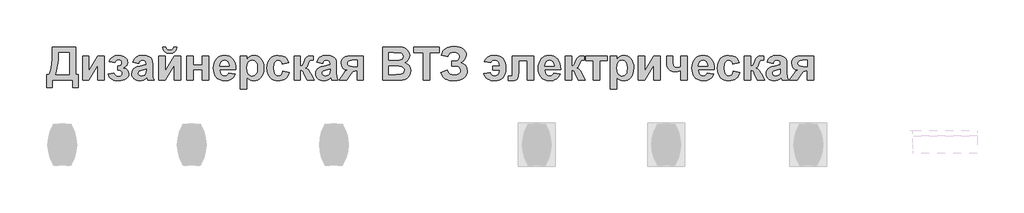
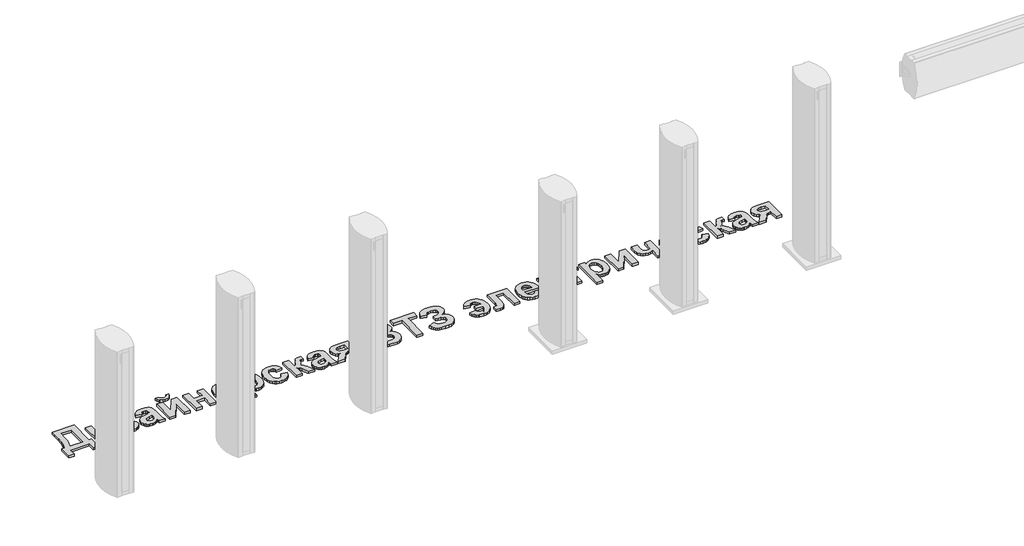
# One storey, part 6 of 8: 1 proxy.
"""IFC4 building model written with IfcOpenShell, lengths in millimetres."""

from ifc_helpers import new_model, si_unit, origin, origin_with_axes, place, context, project, spatial, polyline, outline, extrude, element, save

model = new_model("IFC4")

# Units and contexts
model_context = context("Model", 3, world=origin())
ifc_project = project(units=[si_unit("LENGTHUNIT", "METRE", prefix="MILLI")], contexts=[model_context])

# Site, building, storey
site = spatial("IfcSite", under=ifc_project)
building = spatial("IfcBuilding", under=site)
storey = spatial("IfcBuildingStorey", under=building, Name="Уровень 1", Elevation=0.0)

# Proxy
placement = place(None, origin())
element("IfcBuildingElementProxy", 1, Name="ИЗТТ_Текст1", ObjectType="ИЗТТ_Текст1", at=placement, inside=storey, context=model_context, shape_type="SweptSolid", body=[
    extrude(outline(polyline([(-15301.8566693, 5559.1310896), (-15016.8318211, 5559.1310896), (-15016.8318211, 5222.2835417), (-14984.4426338, 5222.2835417), (-14984.4426338, 5060.3376052), (-15055.6988459, 5060.3376052), (-15055.6988459, 5151.0273296), (-15301.8566693, 5151.0273296), (-15301.8566693, 5060.3376052), (-15373.1128814, 5060.3376052), (-15373.1128814, 5222.2835417), (-15340.7236941, 5222.2835417), (-15320.9991851, 5278.3826263), (-15309.397277, 5342.8320482), (-15303.7418213, 5420.5154896), (-15301.8566693, 5516.3166326), (-15301.8566693, 5559.1310896)]), holes=[polyline([(-15224.1226198, 5487.8748775), (-15226.5518089, 5402.9544771), (-15233.839376, 5330.3824543), (-15245.9853213, 5270.1588092), (-15262.9896446, 5222.2835417), (-15094.5658706, 5222.2835417), (-15094.5658706, 5487.8748775), (-15224.1226198, 5487.8748775)])]), origin_with_axes(), (0.0, 0.0, 1.0), 30.0),
    extrude(outline(polyline([(-14932.6199341, 5449.0078528), (-14854.8858846, 5449.0078528), (-14854.8858846, 5265.7052959), (-14744.7626478, 5449.0078528), (-14667.0285983, 5449.0078528), (-14667.0285983, 5151.0273296), (-14744.7626478, 5151.0273296), (-14744.7626478, 5334.4311027), (-14854.8858846, 5151.0273296), (-14932.6199341, 5151.0273296), (-14932.6199341, 5449.0078528)])), origin_with_axes(), (0.0, 0.0, 1.0), 30.0),
    extrude(outline(polyline([(-14505.0826618, 5274.1062414), (-14505.0826618, 5325.928941), (-14477.3494201, 5328.6111706), (-14468.9611267, 5333.2165082), (-14461.0030022, 5341.6680617), (-14455.1957221, 5352.7891929), (-14453.2599621, 5365.4032631), (-14455.613239, 5379.0421474), (-14462.6730696, 5391.6182615), (-14474.4647581, 5400.6518083), (-14491.0136085, 5403.6629906), (-14504.703101, 5401.967619), (-14516.8237422, 5396.8815045), (-14527.6538767, 5385.4693768), (-14537.4718491, 5364.7959658), (-14608.7280611, 5377.7516407), (-14602.3640919, 5395.9705586), (-14593.1913728, 5411.7602874), (-14581.2099039, 5425.1208272), (-14566.4196852, 5436.0521779), (-14531.7784372, 5450.6273122), (-14492.6330679, 5455.4856902), (-14467.7528582, 5453.9547951), (-14445.8458747, 5449.3621095), (-14426.9121173, 5441.7076336), (-14410.9515862, 5430.9913674), (-14398.2869079, 5417.9597803), (-14389.2407091, 5403.3593419), (-14383.8129898, 5387.1900523), (-14382.00375, 5369.4519115), (-14385.1288005, 5348.3483316), (-14394.503952, 5331.192184), (-14410.6352855, 5316.5411375), (-14434.0288821, 5302.9528613), (-14405.5365189, 5291.6166457), (-14385.2426688, 5275.6244845), (-14373.0967235, 5255.0522898), (-14369.0480751, 5229.9759737), (-14371.0502583, 5213.0791926), (-14377.0568077, 5197.409658), (-14387.0677235, 5182.96737), (-14401.0830057, 5169.7523285), (-14418.8622656, 5158.7260876), (-14440.1651149, 5150.8502013), (-14464.9915535, 5146.1246694), (-14493.3415814, 5144.5494922), (-14540.6854637, 5149.8127351), (-14560.542819, 5156.3917888), (-14577.857117, 5165.6024639), (-14592.6283577, 5177.4447605), (-14604.8565411, 5191.9186786), (-14614.5416672, 5209.0242181), (-14621.683736, 5228.7613791), (-14550.427524, 5241.7170541), (-14540.5462915, 5221.8786768), (-14527.9069172, 5207.7084074), (-14512.5094012, 5199.2062457), (-14494.3537435, 5196.3721918), (-14474.9328831, 5199.332766), (-14459.7884076, 5208.2144885), (-14450.0336954, 5221.0942512), (-14446.7821246, 5236.0489463), (-14449.9577832, 5251.9398913), (-14459.484759, 5263.9846203), (-14474.1484575, 5271.5758361), (-14492.7342841, 5274.1062414), (-14505.0826618, 5274.1062414)])), origin_with_axes(), (0.0, 0.0, 1.0), 30.0),
    extrude(outline(polyline([(-14245.9691634, 5358.3181283), (-14317.2253754, 5371.2738033), (-14301.7772513, 5408.6225849), (-14290.9692579, 5423.121807), (-14278.1053101, 5434.8375833), (-14262.5338288, 5443.8711301), (-14243.6032344, 5450.3236635), (-14195.6647068, 5455.4856902), (-14152.3188648, 5452.3606398), (-14121.6756571, 5442.9854883), (-14100.9769421, 5428.8152188), (-14087.464578, 5411.3048144), (-14080.0251866, 5384.0903059), (-14077.5453894, 5340.807724), (-14077.5453894, 5248.903405), (-14073.4461329, 5191.0077327), (-14058.111877, 5151.0273296), (-14135.8459265, 5151.0273296), (-14143.1334937, 5175.7240849), (-14145.8663314, 5185.5420573), (-14165.9830532, 5167.6394401), (-14187.4661938, 5154.8229375), (-14210.3663614, 5147.1178535), (-14234.734164, 5144.5494922), (-14255.7270386, 5146.1088544), (-14274.3729624, 5150.7869411), (-14290.6719352, 5158.5837523), (-14304.6239572, 5169.499288), (-14315.8051855, 5182.7934046), (-14323.7917771, 5197.7259587), (-14328.583732, 5214.2969501), (-14330.1810503, 5232.5063789), (-14327.3343444, 5256.3427965), (-14318.7942267, 5277.4463763), (-14305.1173863, 5294.8808685), (-14286.8605123, 5307.7100232), (-14261.7841962, 5317.5532996), (-14227.6490293, 5326.0301573), (-14183.4428494, 5336.025258), (-14155.2794389, 5345.3624534), (-14155.2794389, 5353.5609665), (-14157.6959759, 5373.7536004), (-14164.945587, 5387.1647483), (-14178.8754679, 5394.6800519), (-14201.3328146, 5397.1851531), (-14217.4514961, 5395.0343086), (-14229.5721373, 5388.5817752), (-14238.7322043, 5376.7141746), (-14245.9691634, 5358.3181283)]), holes=[polyline([(-14155.2794389, 5287.0619163), (-14199.106058, 5276.2823899), (-14238.3779476, 5263.9846203), (-14248.9297375, 5252.9267494), (-14252.4470008, 5239.1866488), (-14249.625599, 5225.4085922), (-14241.1613934, 5213.6295557), (-14228.3448907, 5205.5449109), (-14212.4665977, 5202.8500293), (-14193.4126462, 5205.9877318), (-14175.3202486, 5215.4008394), (-14164.439506, 5225.9779334), (-14158.1134928, 5238.6805678), (-14155.2794389, 5272.9928631), (-14155.2794389, 5287.0619163)])]), origin_with_axes(), (0.0, 0.0, 1.0), 30.0),
    extrude(outline(polyline([(-13818.431891, 5559.1310896), (-13779.5648662, 5559.1310896), (-13787.9278556, 5526.7039462), (-13795.8764911, 5513.4224816), (-13806.3365539, 5502.0957551), (-13833.2221097, 5486.5717188), (-13867.0156719, 5481.3970401), (-13900.8092342, 5486.5717188), (-13927.69479, 5502.0957551), (-13938.1548528, 5513.4224816), (-13946.1034883, 5526.7039462), (-13954.4664777, 5559.1310896), (-13915.5994529, 5559.1310896), (-13911.1712437, 5542.3165467), (-13901.7328321, 5530.1326454), (-13887.0817856, 5522.73121), (-13867.0156719, 5520.2640648), (-13846.9495583, 5522.73121), (-13832.2985118, 5530.1326454), (-13822.8601002, 5542.3165467), (-13818.431891, 5559.1310896)])), origin_with_axes(), (0.0, 0.0, 1.0), 30.0),
    extrude(outline(polyline([(-13999.8113399, 5449.0078528), (-13922.0772904, 5449.0078528), (-13922.0772904, 5265.7052959), (-13811.9540535, 5449.0078528), (-13734.220004, 5449.0078528), (-13734.220004, 5151.0273296), (-13811.9540535, 5151.0273296), (-13811.9540535, 5334.4311027), (-13922.0772904, 5151.0273296), (-13999.8113399, 5151.0273296), (-13999.8113399, 5449.0078528)])), origin_with_axes(), (0.0, 0.0, 1.0), 30.0),
    extrude(outline(polyline([(-13656.4859545, 5449.0078528), (-13578.751905, 5449.0078528), (-13578.751905, 5338.884616), (-13468.6286682, 5338.884616), (-13468.6286682, 5449.0078528), (-13390.8946186, 5449.0078528), (-13390.8946186, 5151.0273296), (-13468.6286682, 5151.0273296), (-13468.6286682, 5280.5840788), (-13578.751905, 5280.5840788), (-13578.751905, 5151.0273296), (-13656.4859545, 5151.0273296), (-13656.4859545, 5449.0078528)])), origin_with_axes(), (0.0, 0.0, 1.0), 30.0),
    extrude(outline(polyline([(-13144.7367952, 5241.7170541), (-13067.0027456, 5228.7613791), (-13085.930177, 5192.4880198), (-13098.5822032, 5178.0425688), (-13113.35977, 5166.0579369), (-13130.1932909, 5156.6479923), (-13149.01318, 5149.9266033), (-13192.6120626, 5144.5494922), (-13227.8163258, 5147.7188247), (-13258.1242548, 5157.2268225), (-13283.5358496, 5173.0734854), (-13304.0511102, 5195.2588135), (-13316.5386601, 5216.8874525), (-13325.4583387, 5241.185669), (-13330.8101458, 5268.153463), (-13332.5940815, 5297.7908346), (-13330.2281526, 5332.7357312), (-13323.1303658, 5363.6825875), (-13311.3007212, 5390.6314035), (-13294.7392188, 5413.5821792), (-13274.5592369, 5431.9149653), (-13251.8741538, 5445.0098125), (-13226.6839694, 5452.8667208), (-13198.9886839, 5455.4856902), (-13168.2126299, 5452.7971347), (-13140.8652751, 5444.7314679), (-13116.9466194, 5431.28869), (-13096.4566628, 5412.4688009), (-13080.1292229, 5388.0946722), (-13068.6981172, 5357.9891757), (-13062.1633456, 5322.1523112), (-13060.5249082, 5280.5840788), (-13254.860032, 5280.5840788), (-13249.8751336, 5247.8406348), (-13236.5398979, 5223.2957038), (-13216.8786491, 5207.9614479), (-13192.9157113, 5202.8500293), (-13176.5945973, 5205.1526981), (-13163.0569292, 5212.0607044), (-13152.4039231, 5224.0801294), (-13144.7367952, 5241.7170541)]), holes=[polyline([(-13138.2589577, 5325.928941), (-13142.9908155, 5356.6607129), (-13155.5669297, 5379.0168434), (-13173.8364556, 5392.6430757), (-13195.6485489, 5397.1851531), (-13218.6752368, 5392.4026872), (-13237.3496276, 5378.0552894), (-13249.596789, 5355.4081623), (-13253.5442212, 5325.928941), (-13138.2589577, 5325.928941)])]), origin_with_axes(), (0.0, 0.0, 1.0), 30.0),
    extrude(outline(polyline([(-13002.224371, 5449.0078528), (-12924.4903215, 5449.0078528), (-12924.4903215, 5406.0921796), (-12908.4222481, 5426.0570771), (-12887.5464047, 5441.8215019), (-12862.9761697, 5452.0696431), (-12835.8249213, 5455.4856902), (-12812.0106448, 5452.945796), (-12790.0625422, 5445.3261131), (-12769.9806135, 5432.6266417), (-12751.7648586, 5414.8473818), (-12736.6425242, 5392.5386965), (-12725.8408567, 5366.2509488), (-12719.3598563, 5335.9841389), (-12717.1995228, 5301.7382668), (-12719.4294424, 5266.5213516), (-12726.1192013, 5235.4669531), (-12737.2687995, 5208.5750712), (-12752.8782369, 5185.845706), (-12771.663333, 5167.7786124), (-12792.3399069, 5154.8735456), (-12814.9079588, 5147.1305055), (-12839.3674886, 5144.5494922), (-12862.4194805, 5146.9533772), (-12883.1941077, 5154.1650321), (-12903.3361336, 5167.2219233), (-12924.4903215, 5187.1615167), (-12924.4903215, 5040.9040928), (-13002.224371, 5040.9040928), (-13002.224371, 5449.0078528)]), holes=[polyline([(-12924.4903215, 5305.1796179), (-12919.6192914, 5259.6829314), (-12913.5305037, 5242.0586588), (-12905.006201, 5227.8504333), (-12883.3838881, 5209.1001303), (-12870.9690873, 5204.4125546), (-12857.4851903, 5202.8500293), (-12832.9023032, 5208.5813972), (-12812.7982334, 5225.7755009), (-12804.9824442, 5239.0759436), (-12799.3997376, 5256.0517998), (-12794.9335723, 5301.0297533), (-12799.5262579, 5343.5405616), (-12805.2671148, 5360.089412), (-12813.3043145, 5373.5005599), (-12833.8891613, 5391.2640048), (-12858.9022172, 5397.1851531), (-12884.7503069, 5391.377873), (-12905.8159307, 5373.9560328), (-12913.9859767, 5360.9465868), (-12919.8217238, 5345.147369), (-12924.4903215, 5305.1796179)])]), origin_with_axes(), (0.0, 0.0, 1.0), 30.0),
    extrude(outline(polyline([(-12412.7411622, 5364.7959658), (-12490.4752117, 5351.8402909), (-12496.4343161, 5371.615408), (-12507.0240621, 5385.7983294), (-12521.8648889, 5394.3384472), (-12540.5772358, 5397.1851531), (-12565.223383, 5391.845998), (-12584.3026386, 5375.8285327), (-12591.4320555, 5363.3599608), (-12596.524496, 5347.3108655), (-12600.5984485, 5304.4711045), (-12596.3600197, 5256.9753978), (-12591.0619837, 5239.3574512), (-12583.6447333, 5225.826109), (-12563.793704, 5208.5940492), (-12538.1480467, 5202.8500293), (-12518.7271864, 5206.1269041), (-12503.1778461, 5215.9575285), (-12491.575938, 5233.8095376), (-12483.9973742, 5261.1505664), (-12406.2633247, 5248.1948915), (-12413.4275346, 5224.1085965), (-12423.2803001, 5203.16633), (-12435.8216211, 5185.368092), (-12451.0514978, 5170.7138825), (-12469.0331901, 5159.2669617), (-12489.8299583, 5151.0905898), (-12513.4418024, 5146.1847666), (-12539.8687223, 5144.5494922), (-12569.8951437, 5147.1241795), (-12596.7142764, 5154.8482416), (-12620.3261205, 5167.7216783), (-12640.7306759, 5185.7444898), (-12657.1814731, 5208.3157047), (-12668.9320425, 5234.8343518), (-12675.9823841, 5265.3004311), (-12678.332498, 5299.7139426), (-12675.9981992, 5334.5165039), (-12668.9953026, 5365.2387867), (-12657.3238084, 5391.8807911), (-12640.9837164, 5414.442517), (-12620.6582362, 5432.3989053), (-12597.0305771, 5445.2248969), (-12570.1007391, 5452.9204919), (-12539.8687223, 5455.4856902), (-12493.0815291, 5449.8808426), (-12473.6922988, 5442.874783), (-12456.9726461, 5433.0662997), (-12442.6695304, 5420.3921323), (-12430.5299111, 5404.7890209), (-12412.7411622, 5364.7959658)])), origin_with_axes(), (0.0, 0.0, 1.0), 30.0),
    extrude(outline(polyline([(-12347.9627876, 5449.0078528), (-12270.228738, 5449.0078528), (-12270.228738, 5325.928941), (-12253.8190599, 5330.0408496), (-12243.0521856, 5337.923062), (-12234.2590273, 5353.4724023), (-12223.7704975, 5380.5856946), (-12208.2844173, 5416.5427533), (-12191.3813102, 5436.7606913), (-12171.0368519, 5445.9460624), (-12145.2267183, 5449.0078528), (-12114.760639, 5447.6920421), (-12114.4569904, 5397.1851531), (-12139.4067862, 5395.66691), (-12153.3240151, 5391.1121805), (-12162.1804335, 5378.5613704), (-12171.7453654, 5353.4597503), (-12188.0664793, 5319.2739752), (-12198.4474669, 5308.2730384), (-12210.3087415, 5301.3334019), (-12192.6465128, 5293.5081237), (-12176.4013111, 5280.2551261), (-12161.5731363, 5261.5744093), (-12148.1619884, 5237.4659732), (-12145.1255021, 5231.6966492), (-12101.8049641, 5151.0273296), (-12189.1545536, 5151.0273296), (-12225.9972541, 5234.4294869), (-12236.5743481, 5255.2041141), (-12245.6331989, 5266.9198904), (-12255.9319483, 5272.3096536), (-12270.228738, 5274.1062414), (-12270.228738, 5151.0273296), (-12347.9627876, 5151.0273296), (-12347.9627876, 5449.0078528)])), origin_with_axes(), (0.0, 0.0, 1.0), 30.0),
    extrude(outline(polyline([(-11998.1595647, 5358.3181283), (-12069.4157768, 5371.2738033), (-12053.9676527, 5408.6225849), (-12043.1596592, 5423.121807), (-12030.2957115, 5434.8375833), (-12014.7242301, 5443.8711301), (-11995.7936358, 5450.3236635), (-11947.8551082, 5455.4856902), (-11904.5092661, 5452.3606398), (-11873.8660585, 5442.9854883), (-11853.1673435, 5428.8152188), (-11839.6549794, 5411.3048144), (-11832.2155879, 5384.0903059), (-11829.7357908, 5340.807724), (-11829.7357908, 5248.903405), (-11825.6365342, 5191.0077327), (-11810.3022784, 5151.0273296), (-11888.0363279, 5151.0273296), (-11895.323895, 5175.7240849), (-11898.0567327, 5185.5420573), (-11918.1734545, 5167.6394401), (-11939.6565952, 5154.8229375), (-11962.5567627, 5147.1178535), (-11986.9245654, 5144.5494922), (-12007.91744, 5146.1088544), (-12026.5633637, 5150.7869411), (-12042.8623366, 5158.5837523), (-12056.8143586, 5169.499288), (-12067.9955868, 5182.7934046), (-12075.9821784, 5197.7259587), (-12080.7741334, 5214.2969501), (-12082.3714517, 5232.5063789), (-12079.5247458, 5256.3427965), (-12070.984628, 5277.4463763), (-12057.3077876, 5294.8808685), (-12039.0509137, 5307.7100232), (-12013.9745976, 5317.5532996), (-11979.8394307, 5326.0301573), (-11935.6332508, 5336.025258), (-11907.4698403, 5345.3624534), (-11907.4698403, 5353.5609665), (-11909.8863773, 5373.7536004), (-11917.1359884, 5387.1647483), (-11931.0658693, 5394.6800519), (-11953.523216, 5397.1851531), (-11969.6418975, 5395.0343086), (-11981.7625387, 5388.5817752), (-11990.9226057, 5376.7141746), (-11998.1595647, 5358.3181283)]), holes=[polyline([(-11907.4698403, 5287.0619163), (-11951.2964593, 5276.2823899), (-11990.568349, 5263.9846203), (-12001.1201389, 5252.9267494), (-12004.6374022, 5239.1866488), (-12001.8160003, 5225.4085922), (-11993.3517947, 5213.6295557), (-11980.5352921, 5205.5449109), (-11964.6569991, 5202.8500293), (-11945.6030475, 5205.9877318), (-11927.5106499, 5215.4008394), (-11916.6299073, 5225.9779334), (-11910.3038942, 5238.6805678), (-11907.4698403, 5272.9928631), (-11907.4698403, 5287.0619163)])]), origin_with_axes(), (0.0, 0.0, 1.0), 30.0),
    extrude(outline(polyline([(-11499.3660803, 5449.0078528), (-11499.3660803, 5151.0273296), (-11577.1001298, 5151.0273296), (-11577.1001298, 5267.6284039), (-11584.387697, 5267.6284039), (-11606.3263105, 5266.0722047), (-11621.5340461, 5261.403607), (-11634.0342481, 5251.7248069), (-11647.8502608, 5235.1380004), (-11652.6074227, 5229.5711088), (-11704.22769, 5151.0273296), (-11797.3466035, 5151.0273296), (-11740.7667419, 5232.5063789), (-11718.5750878, 5260.5685732), (-11698.5595822, 5273.4989441), (-11727.9755433, 5281.0268997), (-11751.2426197, 5299.5621183), (-11766.3870951, 5326.9284511), (-11771.4352536, 5360.9497498), (-11768.0318586, 5388.8095117), (-11757.8216733, 5412.2663684), (-11741.9686844, 5430.1436816), (-11721.6368781, 5441.2648127), (-11693.5493798, 5447.0720928), (-11654.4293145, 5449.0078528), (-11499.3660803, 5449.0078528)]), holes=[polyline([(-11577.1001298, 5397.1851531), (-11635.400667, 5397.1851531), (-11662.8049559, 5394.9457445), (-11680.644313, 5388.2275185), (-11690.4369813, 5376.2966577), (-11693.7012041, 5358.4193446), (-11690.0068124, 5340.5799875), (-11678.9236374, 5328.5605625), (-11659.4142129, 5321.7284683), (-11630.4410727, 5319.4511036), (-11577.1001298, 5319.4511036), (-11577.1001298, 5397.1851531)])]), origin_with_axes(), (0.0, 0.0, 1.0), 30.0),
    extrude(outline(polyline([(-11266.1639317, 5559.1310896), (-11098.6511037, 5559.1310896), (-11024.5102296, 5555.0824412), (-11001.3570215, 5548.8196882), (-10980.7848268, 5538.128726), (-10963.109946, 5523.0981187), (-10948.64868, 5503.8164307), (-10939.007836, 5481.1060435), (-10935.7942213, 5455.7893389), (-10939.6277852, 5428.2079216), (-10951.1284771, 5402.9544771), (-10969.2082227, 5381.8762013), (-10992.7789477, 5366.82029), (-10962.9707737, 5352.1945476), (-10940.956248, 5329.9775895), (-10927.3679718, 5301.6623546), (-10922.8385464, 5268.7417822), (-10926.0901171, 5241.4007534), (-10935.8448294, 5214.8441502), (-10951.2296934, 5191.3113813), (-10971.3717192, 5173.0418554), (-10996.5112954, 5160.4024811), (-11026.8888106, 5153.7601673), (-11126.6879939, 5151.0273296), (-11266.1639317, 5151.0273296), (-11266.1639317, 5559.1310896)]), holes=[polyline([(-11188.4298822, 5487.8748775), (-11188.4298822, 5397.1851531), (-11129.117183, 5397.1851531), (-11063.3266463, 5398.5009638), (-11042.6152792, 5403.2328217), (-11026.8382025, 5412.5700171), (-11016.8557537, 5426.0570771), (-11013.5282708, 5443.2385288), (-11016.4002808, 5459.6735109), (-11025.0163107, 5472.7430541), (-11039.2751443, 5481.8904691), (-11059.0755654, 5486.5590668), (-11136.4047501, 5487.8748775), (-11188.4298822, 5487.8748775)]), polyline([(-11188.4298822, 5325.928941), (-11188.4298822, 5222.2835417), (-11106.2423194, 5222.2835417), (-11045.3101608, 5224.7127307), (-11027.3189795, 5230.14045), (-11013.0221897, 5240.1482028), (-11003.6849943, 5254.5335567), (-11000.5725959, 5273.0940793), (-11002.9764809, 5289.1874567), (-11010.1881359, 5302.6492127), (-11021.9292163, 5313.1503945), (-11037.9213775, 5320.3620495), (-11066.6667812, 5324.5372182), (-11116.6675891, 5325.928941), (-11188.4298822, 5325.928941)])]), origin_with_axes(), (0.0, 0.0, 1.0), 30.0),
    extrude(outline(polyline([(-10767.3704473, 5151.0273296), (-10767.3704473, 5487.8748775), (-10883.9715216, 5487.8748775), (-10883.9715216, 5559.1310896), (-10573.0353235, 5559.1310896), (-10573.0353235, 5487.8748775), (-10689.6363978, 5487.8748775), (-10689.6363978, 5151.0273296), (-10767.3704473, 5151.0273296)])), origin_with_axes(), (0.0, 0.0, 1.0), 30.0),
    extrude(outline(polyline([(-10469.3899242, 5442.5300153), (-10547.1239737, 5461.9635277), (-10538.838478, 5486.2554182), (-10527.4437468, 5507.3083899), (-10512.9397801, 5525.1224429), (-10495.326578, 5539.6975772), (-10474.6041405, 5551.0337928), (-10450.7724675, 5559.1310896), (-10423.831559, 5563.9894677), (-10393.7814151, 5565.6089271), (-10358.630923, 5563.651026), (-10328.0794425, 5557.7773228), (-10302.1269736, 5547.9878175), (-10280.7735162, 5534.28251), (-10264.1013086, 5517.932929), (-10252.1925888, 5500.2106032), (-10245.047357, 5481.1155325), (-10242.6656131, 5460.647717), (-10246.7901736, 5433.1042557), (-10259.1638553, 5408.3695443), (-10279.7866582, 5386.4435828), (-10308.6585822, 5367.3263711), (-10274.1185504, 5350.46122), (-10249.4470991, 5327.8014409), (-10234.6442284, 5299.2964257), (-10229.7099381, 5264.8955662), (-10232.2498324, 5239.2182789), (-10239.8695152, 5216.1346569), (-10252.5689866, 5195.6447003), (-10270.3482466, 5177.7484091), (-10293.188317, 5163.223883), (-10321.07022, 5152.8492214), (-10353.9939554, 5146.6244245), (-10391.9595233, 5144.5494922), (-10451.00653, 5150.0151675), (-10475.3205615, 5156.8472617), (-10496.1616118, 5166.4121936), (-10514.080044, 5179.7221252), (-10529.6262213, 5197.7892188), (-10542.8001437, 5220.6134742), (-10553.6018111, 5248.1948915), (-10475.8677616, 5274.1062414), (-10460.9130665, 5243.9185066), (-10441.7578987, 5226.6358387), (-10418.0226974, 5218.5132379), (-10389.3279018, 5215.8057042), (-10352.3966371, 5219.9808729), (-10327.0293243, 5232.5063789), (-10312.3403218, 5250.4216482), (-10307.4439877, 5270.7661064), (-10313.0235312, 5293.160193), (-10329.762162, 5310.7465095), (-10357.7104881, 5322.1333332), (-10396.9191176, 5325.928941), (-10417.5672245, 5325.928941), (-10417.5672245, 5384.2294782), (-10407.0407386, 5384.2294782), (-10369.8943894, 5388.2907786), (-10342.6672288, 5400.4746799), (-10325.9665541, 5419.3894592), (-10320.3996626, 5443.6433936), (-10325.0935643, 5463.3299465), (-10339.1752696, 5479.6763645), (-10362.012177, 5490.6836274), (-10392.9716854, 5494.352715), (-10420.1419118, 5491.1137963), (-10441.9350271, 5481.3970401), (-10458.3510312, 5465.2024464), (-10469.3899242, 5442.5300153)])), origin_with_axes(), (0.0, 0.0, 1.0), 30.0),
    extrude(outline(polyline([(-9918.7737401, 5325.928941), (-9834.5618531, 5325.928941), (-9840.0781365, 5357.166794), (-9851.7686088, 5379.4217082), (-9869.5320537, 5392.7442919), (-9893.2672551, 5397.1851531), (-9909.8161054, 5395.1608289), (-9925.4540099, 5389.0878563), (-9937.8529957, 5378.9662352), (-9944.6850899, 5364.7959658), (-10022.4191394, 5377.7516407), (-10004.2255256, 5411.7602874), (-9991.883474, 5425.1208272), (-9977.3779258, 5436.0521779), (-9941.8763401, 5450.6273122), (-9897.7207683, 5455.4856902), (-9865.0279324, 5452.8667208), (-9836.5861773, 5445.0098125), (-9812.395503, 5431.9149653), (-9792.4559096, 5413.5821792), (-9776.8686132, 5390.8211839), (-9765.7348301, 5364.4417091), (-9759.0545602, 5334.4437547), (-9756.8278035, 5300.8273209), (-9759.0893532, 5265.4743964), (-9765.8740023, 5234.4168349), (-9777.1817508, 5207.6546363), (-9793.0125987, 5185.1878006), (-9813.0882015, 5167.4085407), (-9837.1302144, 5154.7090693), (-9865.1386376, 5147.0893864), (-9897.113471, 5144.5494922), (-9944.1790088, 5150.2175999), (-9964.1818624, 5157.3027347), (-9981.8314391, 5167.2219233), (-9997.1277389, 5179.9751658), (-10010.0707618, 5195.5624622), (-10020.6605078, 5213.9838124), (-10028.8969769, 5235.2392166), (-9951.1629274, 5248.1948915), (-9944.1284007, 5228.3565143), (-9932.8427933, 5214.1862449), (-9917.306105, 5205.6840832), (-9897.5183359, 5202.8500293), (-9872.8089285, 5207.3035426), (-9854.1471898, 5220.6640823), (-9841.4319033, 5242.9316486), (-9834.5618531, 5274.1062414), (-9918.7737401, 5274.1062414), (-9918.7737401, 5325.928941)])), origin_with_axes(), (0.0, 0.0, 1.0), 30.0),
    extrude(outline(polyline([(-9679.093754, 5449.0078528), (-9419.9802556, 5449.0078528), (-9419.9802556, 5151.0273296), (-9497.7143051, 5151.0273296), (-9497.7143051, 5390.7073156), (-9601.3597045, 5390.7073156), (-9601.3597045, 5252.8508372), (-9604.2190624, 5208.1385763), (-9612.7971363, 5179.0642199), (-9624.8418653, 5161.4652513), (-9638.1011889, 5151.1791539), (-9656.1935864, 5146.2069076), (-9682.7375376, 5144.5494922), (-9730.9164537, 5149.306654), (-9730.9164537, 5204.2670562), (-9718.5680761, 5203.659759), (-9700.8552392, 5202.8500293), (-9688.7725541, 5205.5322589), (-9682.4844971, 5213.5789476), (-9679.093754, 5273.2965117), (-9679.093754, 5449.0078528)])), origin_with_axes(), (0.0, 0.0, 1.0), 30.0),
    extrude(outline(polyline([(-9173.8224321, 5241.7170541), (-9096.0883826, 5228.7613791), (-9115.015814, 5192.4880198), (-9127.6678402, 5178.0425688), (-9142.4454069, 5166.0579369), (-9159.2789279, 5156.6479923), (-9178.098817, 5149.9266033), (-9221.6976996, 5144.5494922), (-9256.9019628, 5147.7188247), (-9287.2098917, 5157.2268225), (-9312.6214866, 5173.0734854), (-9333.1367472, 5195.2588135), (-9345.6242971, 5216.8874525), (-9354.5439757, 5241.185669), (-9359.8957828, 5268.153463), (-9361.6797185, 5297.7908346), (-9359.3137896, 5332.7357312), (-9352.2160028, 5363.6825875), (-9340.3863582, 5390.6314035), (-9323.8248558, 5413.5821792), (-9303.6448739, 5431.9149653), (-9280.9597908, 5445.0098125), (-9255.7696064, 5452.8667208), (-9228.0743209, 5455.4856902), (-9197.2982669, 5452.7971347), (-9169.9509121, 5444.7314679), (-9146.0322564, 5431.28869), (-9125.5422998, 5412.4688009), (-9109.2148599, 5388.0946722), (-9097.7837541, 5357.9891757), (-9091.2489826, 5322.1523112), (-9089.6105452, 5280.5840788), (-9283.945669, 5280.5840788), (-9278.9607706, 5247.8406348), (-9265.6255349, 5223.2957038), (-9245.964286, 5207.9614479), (-9222.0013483, 5202.8500293), (-9205.6802343, 5205.1526981), (-9192.1425662, 5212.0607044), (-9181.4895601, 5224.0801294), (-9173.8224321, 5241.7170541)]), holes=[polyline([(-9167.3445947, 5325.928941), (-9172.0764525, 5356.6607129), (-9184.6525666, 5379.0168434), (-9202.9220926, 5392.6430757), (-9224.7341859, 5397.1851531), (-9247.7608738, 5392.4026872), (-9266.4352646, 5378.0552894), (-9278.682426, 5355.4081623), (-9282.6298582, 5325.928941), (-9167.3445947, 5325.928941)])]), origin_with_axes(), (0.0, 0.0, 1.0), 30.0),
    extrude(outline(polyline([(-9031.310008, 5449.0078528), (-8953.5759585, 5449.0078528), (-8953.5759585, 5325.928941), (-8937.1662804, 5330.0408496), (-8926.399406, 5337.923062), (-8917.6062478, 5353.4724023), (-8907.117718, 5380.5856946), (-8891.6316378, 5416.5427533), (-8874.7285307, 5436.7606913), (-8854.3840724, 5445.9460624), (-8828.5739388, 5449.0078528), (-8798.1078595, 5447.6920421), (-8797.8042108, 5397.1851531), (-8822.7540067, 5395.66691), (-8836.6712356, 5391.1121805), (-8845.527654, 5378.5613704), (-8855.0925859, 5353.4597503), (-8871.4136998, 5319.2739752), (-8881.7946874, 5308.2730384), (-8893.655962, 5301.3334019), (-8875.9937333, 5293.5081237), (-8859.7485315, 5280.2551261), (-8844.9203567, 5261.5744093), (-8831.5092089, 5237.4659732), (-8828.4727226, 5231.6966492), (-8785.1521845, 5151.0273296), (-8872.501774, 5151.0273296), (-8909.3444746, 5234.4294869), (-8919.9215686, 5255.2041141), (-8928.9804194, 5266.9198904), (-8939.2791688, 5272.3096536), (-8953.5759585, 5274.1062414), (-8953.5759585, 5151.0273296), (-9031.310008, 5151.0273296), (-9031.310008, 5449.0078528)])), origin_with_axes(), (0.0, 0.0, 1.0), 30.0),
    extrude(outline(polyline([(-8778.6743471, 5449.0078528), (-8519.5608487, 5449.0078528), (-8519.5608487, 5390.7073156), (-8610.2505731, 5390.7073156), (-8610.2505731, 5151.0273296), (-8687.9846226, 5151.0273296), (-8687.9846226, 5390.7073156), (-8778.6743471, 5390.7073156), (-8778.6743471, 5449.0078528)])), origin_with_axes(), (0.0, 0.0, 1.0), 30.0),
    extrude(outline(polyline([(-8480.6938239, 5449.0078528), (-8402.9597744, 5449.0078528), (-8402.9597744, 5406.0921796), (-8386.891701, 5426.0570771), (-8366.0158576, 5441.8215019), (-8341.4456226, 5452.0696431), (-8314.2943742, 5455.4856902), (-8290.4800977, 5452.945796), (-8268.5319951, 5445.3261131), (-8248.4500664, 5432.6266417), (-8230.2343115, 5414.8473818), (-8215.1119771, 5392.5386965), (-8204.3103096, 5366.2509488), (-8197.8293092, 5335.9841389), (-8195.6689757, 5301.7382668), (-8197.8988953, 5266.5213516), (-8204.5886542, 5235.4669531), (-8215.7382524, 5208.5750712), (-8231.3476898, 5185.845706), (-8250.1327858, 5167.7786124), (-8270.8093598, 5154.8735456), (-8293.3774117, 5147.1305055), (-8317.8369415, 5144.5494922), (-8340.8889334, 5146.9533772), (-8361.6635606, 5154.1650321), (-8381.8055864, 5167.2219233), (-8402.9597744, 5187.1615167), (-8402.9597744, 5040.9040928), (-8480.6938239, 5040.9040928), (-8480.6938239, 5449.0078528)]), holes=[polyline([(-8402.9597744, 5305.1796179), (-8398.0887443, 5259.6829314), (-8391.9999566, 5242.0586588), (-8383.4756539, 5227.8504333), (-8361.853341, 5209.1001303), (-8349.4385402, 5204.4125546), (-8335.9546432, 5202.8500293), (-8311.3717561, 5208.5813972), (-8291.2676863, 5225.7755009), (-8283.4518971, 5239.0759436), (-8277.8691905, 5256.0517998), (-8273.4030252, 5301.0297533), (-8277.9957107, 5343.5405616), (-8283.7365677, 5360.089412), (-8291.7737674, 5373.5005599), (-8312.3586141, 5391.2640048), (-8337.3716701, 5397.1851531), (-8363.2197598, 5391.377873), (-8384.2853836, 5373.9560328), (-8392.4554296, 5360.9465868), (-8398.2911767, 5345.147369), (-8402.9597744, 5305.1796179)])]), origin_with_axes(), (0.0, 0.0, 1.0), 30.0),
    extrude(outline(polyline([(-8137.3684385, 5449.0078528), (-8059.634389, 5449.0078528), (-8059.634389, 5265.7052959), (-7949.5111522, 5449.0078528), (-7871.7771027, 5449.0078528), (-7871.7771027, 5151.0273296), (-7949.5111522, 5151.0273296), (-7949.5111522, 5334.4311027), (-8059.634389, 5151.0273296), (-8137.3684385, 5151.0273296), (-8137.3684385, 5449.0078528)])), origin_with_axes(), (0.0, 0.0, 1.0), 30.0),
    extrude(outline(polyline([(-7794.0430532, 5449.0078528), (-7716.3090036, 5449.0078528), (-7716.3090036, 5374.7151544), (-7712.3109633, 5336.7590755), (-7706.0608623, 5325.1951235), (-7695.30664, 5315.4024552), (-7680.5923334, 5308.7221853), (-7662.4619797, 5306.4954287), (-7641.9656972, 5308.9752258), (-7619.1414417, 5316.4146173), (-7619.1414417, 5449.0078528), (-7541.4073922, 5449.0078528), (-7541.4073922, 5151.0273296), (-7619.1414417, 5151.0273296), (-7619.1414417, 5266.8186742), (-7657.4011692, 5257.7092153), (-7685.3368433, 5254.672729), (-7717.7260306, 5258.6201612), (-7746.6738667, 5270.4624578), (-7769.6119904, 5288.4789432), (-7783.9720402, 5310.9489419), (-7791.5252999, 5339.7196497), (-7794.0430532, 5376.6382624), (-7794.0430532, 5449.0078528)])), origin_with_axes(), (0.0, 0.0, 1.0), 30.0),
    extrude(outline(polyline([(-7295.2495687, 5241.7170541), (-7217.5155192, 5228.7613791), (-7236.4429505, 5192.4880198), (-7249.0949768, 5178.0425688), (-7263.8725435, 5166.0579369), (-7280.7060645, 5156.6479923), (-7299.5259536, 5149.9266033), (-7343.1248362, 5144.5494922), (-7378.3290994, 5147.7188247), (-7408.6370283, 5157.2268225), (-7434.0486231, 5173.0734854), (-7454.5638838, 5195.2588135), (-7467.0514337, 5216.8874525), (-7475.9711122, 5241.185669), (-7481.3229194, 5268.153463), (-7483.1068551, 5297.7908346), (-7480.7409262, 5332.7357312), (-7473.6431394, 5363.6825875), (-7461.8134948, 5390.6314035), (-7445.2519924, 5413.5821792), (-7425.0720105, 5431.9149653), (-7402.3869273, 5445.0098125), (-7377.196743, 5452.8667208), (-7349.5014575, 5455.4856902), (-7318.7254035, 5452.7971347), (-7291.3780487, 5444.7314679), (-7267.459393, 5431.28869), (-7246.9694364, 5412.4688009), (-7230.6419965, 5388.0946722), (-7219.2108907, 5357.9891757), (-7212.6761192, 5322.1523112), (-7211.0376818, 5280.5840788), (-7405.3728056, 5280.5840788), (-7400.3879072, 5247.8406348), (-7387.0526715, 5223.2957038), (-7367.3914226, 5207.9614479), (-7343.4284848, 5202.8500293), (-7327.1073709, 5205.1526981), (-7313.5697028, 5212.0607044), (-7302.9166967, 5224.0801294), (-7295.2495687, 5241.7170541)]), holes=[polyline([(-7288.7717313, 5325.928941), (-7293.5035891, 5356.6607129), (-7306.0797032, 5379.0168434), (-7324.3492292, 5392.6430757), (-7346.1613225, 5397.1851531), (-7369.1880104, 5392.4026872), (-7387.8624012, 5378.0552894), (-7400.1095626, 5355.4081623), (-7404.0569948, 5325.928941), (-7288.7717313, 5325.928941)])]), origin_with_axes(), (0.0, 0.0, 1.0), 30.0),
    extrude(outline(polyline([(-6906.5793211, 5364.7959658), (-6984.3133707, 5351.8402909), (-6990.272475, 5371.615408), (-7000.862221, 5385.7983294), (-7015.7030479, 5394.3384472), (-7034.4153948, 5397.1851531), (-7059.061542, 5391.845998), (-7078.1407976, 5375.8285327), (-7085.2702144, 5363.3599608), (-7090.362655, 5347.3108655), (-7094.4366075, 5304.4711045), (-7090.1981787, 5256.9753978), (-7084.9001427, 5239.3574512), (-7077.4828922, 5225.826109), (-7057.631863, 5208.5940492), (-7031.9862057, 5202.8500293), (-7012.5653454, 5206.1269041), (-6997.016005, 5215.9575285), (-6985.4140969, 5233.8095376), (-6977.8355332, 5261.1505664), (-6900.1014837, 5248.1948915), (-6907.2656936, 5224.1085965), (-6917.118459, 5203.16633), (-6929.6597801, 5185.368092), (-6944.8896567, 5170.7138825), (-6962.8713491, 5159.2669617), (-6983.6681173, 5151.0905898), (-7007.2799614, 5146.1847666), (-7033.7068813, 5144.5494922), (-7063.7333027, 5147.1241795), (-7090.5524354, 5154.8482416), (-7114.1642795, 5167.7216783), (-7134.5688349, 5185.7444898), (-7151.019632, 5208.3157047), (-7162.7702015, 5234.8343518), (-7169.8205431, 5265.3004311), (-7172.170657, 5299.7139426), (-7169.8363581, 5334.5165039), (-7162.8334616, 5365.2387867), (-7151.1619673, 5391.8807911), (-7134.8218754, 5414.442517), (-7114.4963952, 5432.3989053), (-7090.8687361, 5445.2248969), (-7063.9388981, 5452.9204919), (-7033.7068813, 5455.4856902), (-6986.9196881, 5449.8808426), (-6967.5304578, 5442.874783), (-6950.810805, 5433.0662997), (-6936.5076893, 5420.3921323), (-6924.3680701, 5404.7890209), (-6906.5793211, 5364.7959658)])), origin_with_axes(), (0.0, 0.0, 1.0), 30.0),
    extrude(outline(polyline([(-6841.8009465, 5449.0078528), (-6764.066897, 5449.0078528), (-6764.066897, 5325.928941), (-6747.6572189, 5330.0408496), (-6736.8903445, 5337.923062), (-6728.0971863, 5353.4724023), (-6717.6086565, 5380.5856946), (-6702.1225763, 5416.5427533), (-6685.2194692, 5436.7606913), (-6664.8750109, 5445.9460624), (-6639.0648773, 5449.0078528), (-6608.598798, 5447.6920421), (-6608.2951493, 5397.1851531), (-6633.2449452, 5395.66691), (-6647.1621741, 5391.1121805), (-6656.0185925, 5378.5613704), (-6665.5835244, 5353.4597503), (-6681.9046383, 5319.2739752), (-6692.2856259, 5308.2730384), (-6704.1469005, 5301.3334019), (-6686.4846718, 5293.5081237), (-6670.23947, 5280.2551261), (-6655.4112952, 5261.5744093), (-6642.0001474, 5237.4659732), (-6638.9636611, 5231.6966492), (-6595.643123, 5151.0273296), (-6682.9927125, 5151.0273296), (-6719.8354131, 5234.4294869), (-6730.4125071, 5255.2041141), (-6739.4713579, 5266.9198904), (-6749.7701073, 5272.3096536), (-6764.066897, 5274.1062414), (-6764.066897, 5151.0273296), (-6841.8009465, 5151.0273296), (-6841.8009465, 5449.0078528)])), origin_with_axes(), (0.0, 0.0, 1.0), 30.0),
    extrude(outline(polyline([(-6491.9977237, 5358.3181283), (-6563.2539357, 5371.2738033), (-6547.8058116, 5408.6225849), (-6536.9978182, 5423.121807), (-6524.1338705, 5434.8375833), (-6508.5623891, 5443.8711301), (-6489.6317948, 5450.3236635), (-6441.6932672, 5455.4856902), (-6398.3474251, 5452.3606398), (-6367.7042174, 5442.9854883), (-6347.0055024, 5428.8152188), (-6333.4931383, 5411.3048144), (-6326.0537469, 5384.0903059), (-6323.5739497, 5340.807724), (-6323.5739497, 5248.903405), (-6319.4746932, 5191.0077327), (-6304.1404373, 5151.0273296), (-6381.8744869, 5151.0273296), (-6389.162054, 5175.7240849), (-6391.8948917, 5185.5420573), (-6412.0116135, 5167.6394401), (-6433.4947541, 5154.8229375), (-6456.3949217, 5147.1178535), (-6480.7627243, 5144.5494922), (-6501.755599, 5146.1088544), (-6520.4015227, 5150.7869411), (-6536.7004956, 5158.5837523), (-6550.6525176, 5169.499288), (-6561.8337458, 5182.7934046), (-6569.8203374, 5197.7259587), (-6574.6122923, 5214.2969501), (-6576.2096107, 5232.5063789), (-6573.3629048, 5256.3427965), (-6564.822787, 5277.4463763), (-6551.1459466, 5294.8808685), (-6532.8890727, 5307.7100232), (-6507.8127565, 5317.5532996), (-6473.6775896, 5326.0301573), (-6429.4714098, 5336.025258), (-6401.3079992, 5345.3624534), (-6401.3079992, 5353.5609665), (-6403.7245363, 5373.7536004), (-6410.9741473, 5387.1647483), (-6424.9040283, 5394.6800519), (-6447.3613749, 5397.1851531), (-6463.4800564, 5395.0343086), (-6475.6006976, 5388.5817752), (-6484.7607646, 5376.7141746), (-6491.9977237, 5358.3181283)]), holes=[polyline([(-6401.3079992, 5287.0619163), (-6445.1346183, 5276.2823899), (-6484.4065079, 5263.9846203), (-6494.9582978, 5252.9267494), (-6498.4755611, 5239.1866488), (-6495.6541593, 5225.4085922), (-6487.1899537, 5213.6295557), (-6474.3734511, 5205.5449109), (-6458.4951581, 5202.8500293), (-6439.4412065, 5205.9877318), (-6421.3488089, 5215.4008394), (-6410.4680663, 5225.9779334), (-6404.1420531, 5238.6805678), (-6401.3079992, 5272.9928631), (-6401.3079992, 5287.0619163)])]), origin_with_axes(), (0.0, 0.0, 1.0), 30.0),
    extrude(outline(polyline([(-5993.2042393, 5449.0078528), (-5993.2042393, 5151.0273296), (-6070.9382888, 5151.0273296), (-6070.9382888, 5267.6284039), (-6078.2258559, 5267.6284039), (-6100.1644695, 5266.0722047), (-6115.3722051, 5261.403607), (-6127.8724071, 5251.7248069), (-6141.6884198, 5235.1380004), (-6146.4455817, 5229.5711088), (-6198.0658489, 5151.0273296), (-6291.1847624, 5151.0273296), (-6234.6049009, 5232.5063789), (-6212.4132467, 5260.5685732), (-6192.3977412, 5273.4989441), (-6221.8137023, 5281.0268997), (-6245.0807786, 5299.5621183), (-6260.2252541, 5326.9284511), (-6265.2734126, 5360.9497498), (-6261.8700175, 5388.8095117), (-6251.6598323, 5412.2663684), (-6235.8068434, 5430.1436816), (-6215.4750371, 5441.2648127), (-6187.3875387, 5447.0720928), (-6148.2674735, 5449.0078528), (-5993.2042393, 5449.0078528)]), holes=[polyline([(-6070.9382888, 5397.1851531), (-6129.2388259, 5397.1851531), (-6156.6431149, 5394.9457445), (-6174.4824719, 5388.2275185), (-6184.2751403, 5376.2966577), (-6187.5393631, 5358.4193446), (-6183.8449714, 5340.5799875), (-6172.7617964, 5328.5605625), (-6153.2523718, 5321.7284683), (-6124.2792316, 5319.4511036), (-6070.9382888, 5319.4511036), (-6070.9382888, 5397.1851531)])]), origin_with_axes(), (0.0, 0.0, 1.0), 30.0),
])

save(model, "model.ifc")
